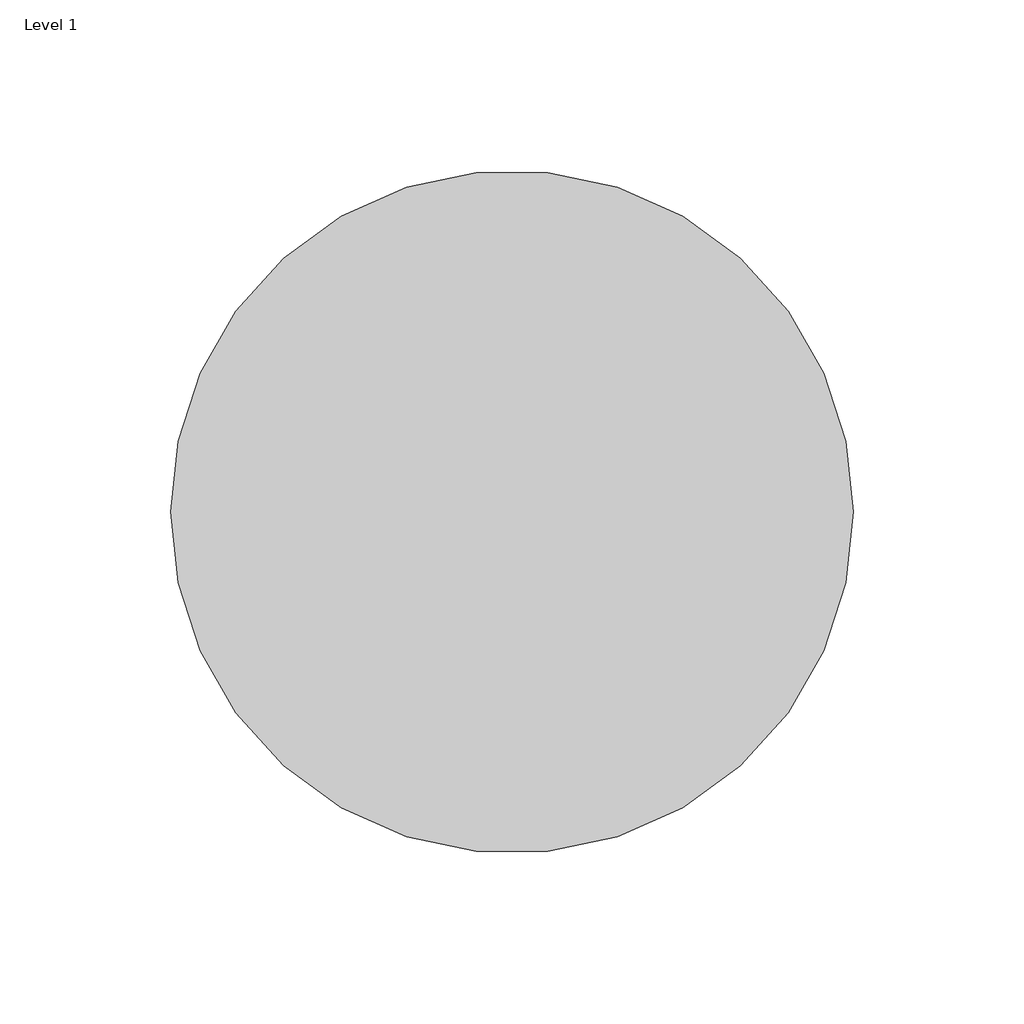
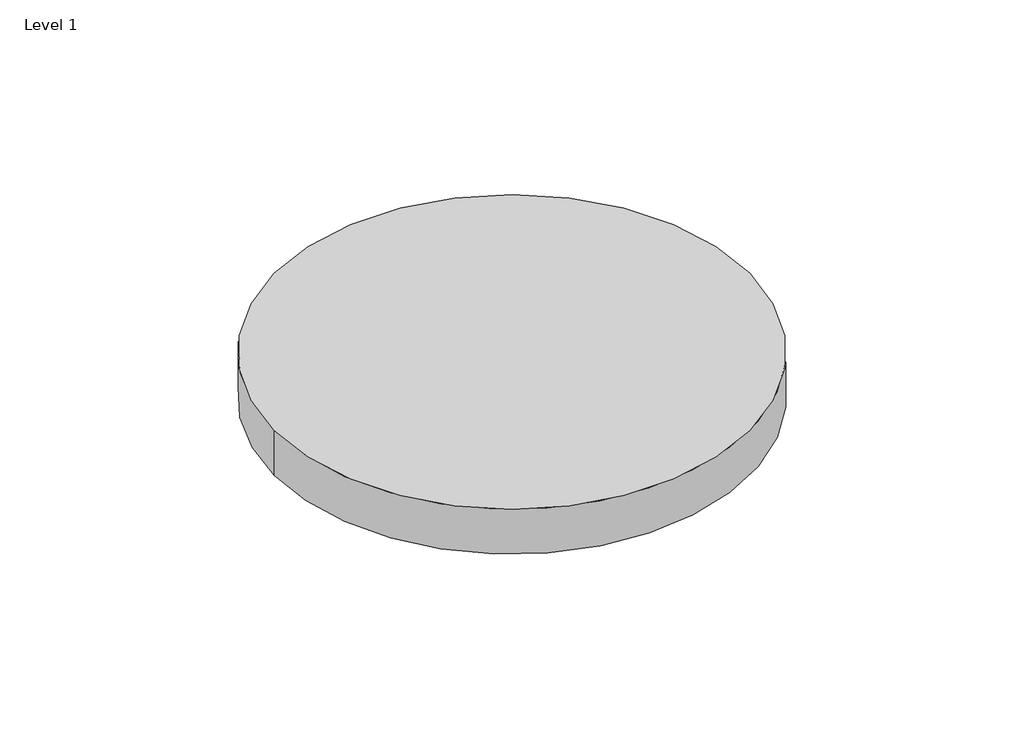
# One storey, incomplete: 1 proxy.
"""IFC4 building model written with IfcOpenShell, lengths in millimetres."""

import ifcopenshell
import ifcopenshell.guid

model = None  # the IFC model being written
_history = None  # IfcOwnerHistory: only IFC2X3 demands one
_inside = {}  # id of a spatial element -> (the spatial element, [elements in it])
_under = {}  # id of a project, library or spatial element -> (it, [spatial elements below it])
_declared = {}  # id of a project -> (the project, [libraries it declares])
_typed = {}  # id of a type object -> (the type object, [elements of that type])
_made_of = {}  # id of a material, layer set ... -> (it, [elements and type objects made of it])


def new_model(schema):
    """Start an empty IFC model of exactly this schema.

    Asked for "IFC4X3", IfcOpenShell would pick the latest addendum, in which some entities
    have other attributes; the version numbers below select the first issue.
    IFC2X3 requires an IfcOwnerHistory on every rooted entity: one is made here for all.
    """
    global model, _history
    if schema == "IFC4X3":
        model = ifcopenshell.file(schema_version=(4, 3, 0, 0))
    else:
        model = ifcopenshell.file(schema=schema)
    _inside.clear()
    _under.clear()
    _declared.clear()
    _typed.clear()
    _made_of.clear()
    _history = None
    if model.schema == "IFC2X3":
        org = make("IfcOrganization", Name="unknown")
        user = make(
            "IfcPersonAndOrganization",
            ThePerson=make("IfcPerson", FamilyName="unknown"),
            TheOrganization=org,
        )
        app = make(
            "IfcApplication",
            ApplicationDeveloper=org,
            Version="unknown",
            ApplicationFullName="unknown",
            ApplicationIdentifier="unknown",
        )
        _history = make(
            "IfcOwnerHistory",
            OwningUser=user,
            OwningApplication=app,
            ChangeAction="ADDED",
            CreationDate=0,
        )
    return model


def make(cls, **values):
    """One entity of the class cls with the attributes given. An attribute that is None is left unset."""
    return model.create_entity(
        cls, **{name: value for name, value in values.items() if value is not None}
    )


def rooted(cls, **values):
    """An entity with a GlobalId (a new one), such as an element, a storey or a relation."""
    return make(cls, GlobalId=ifcopenshell.guid.new(), OwnerHistory=_history, **values)


def si_unit(unit_type, name, prefix=None):
    """IfcSIUnit, for example si_unit("LENGTHUNIT", "METRE", prefix="MILLI")."""
    return make("IfcSIUnit", UnitType=unit_type, Prefix=prefix, Name=name)


def assignment(units):
    """IfcUnitAssignment: the units of a project."""
    return None if units is None else make("IfcUnitAssignment", Units=units)


def point(xyz):
    """IfcCartesianPoint."""
    return None if xyz is None else make("IfcCartesianPoint", Coordinates=xyz)


def direction(xyz):
    """IfcDirection."""
    return None if xyz is None else make("IfcDirection", DirectionRatios=xyz)


def frame(location, z_axis=None, x_axis=None):
    """IfcAxis2Placement3D, a coordinate frame: its origin and axes. An axis left out is left unset."""
    return make(
        "IfcAxis2Placement3D",
        Location=point(location),
        Axis=direction(z_axis),
        RefDirection=direction(x_axis),
    )


def frame_2d(location, x_axis=None):
    """IfcAxis2Placement2D, a coordinate frame in the plane: its origin and x axis."""
    return make(
        "IfcAxis2Placement2D", Location=point(location), RefDirection=direction(x_axis)
    )


def origin():
    """The frame at (0, 0, 0) with its axes left unset."""
    return frame((0.0, 0.0, 0.0))


def origin_with_axes():
    """The frame at (0, 0, 0) with the z axis (0, 0, 1) and the x axis (1, 0, 0) written out."""
    return frame((0.0, 0.0, 0.0), z_axis=(0.0, 0.0, 1.0), x_axis=(1.0, 0.0, 0.0))


def origin_2d():
    """The frame at (0, 0) in the plane with its x axis left unset."""
    return frame_2d((0.0, 0.0))


def place(relative_to, where):
    """IfcLocalPlacement: puts the frame where relative to a parent placement (None: the world)."""
    return make(
        "IfcLocalPlacement", PlacementRelTo=relative_to, RelativePlacement=where
    )


def context(
    kind, dimensions, precision=None, world=None, true_north=None, identifier=None
):
    """IfcGeometricRepresentationContext, for example the 3D "Model" context."""
    return make(
        "IfcGeometricRepresentationContext",
        ContextIdentifier=identifier,
        ContextType=kind,
        CoordinateSpaceDimension=dimensions,
        Precision=precision,
        WorldCoordinateSystem=world,
        TrueNorth=true_north,
    )


def project(units=None, contexts=None):
    """IfcProject with its units and contexts."""
    return rooted(
        "IfcProject",
        Name="project",
        RepresentationContexts=contexts,
        UnitsInContext=assignment(units),
    )


def spatial(cls, under=None, at=None, **own):
    """A site, building, storey or space (cls), placed at a placement, below another one or the project."""
    s = rooted(cls, ObjectPlacement=at, **own)
    if under is not None:
        _under.setdefault(under.id(), (under, []))[1].append(s)
    return s


def circle_curve(where, radius):
    """IfcCircle in the frame where."""
    return make("IfcCircle", Position=where, Radius=radius)


def trimmed(basis, trim1, trim2, sense, master):
    """IfcTrimmedCurve: the piece of a basis curve between two trims."""
    return make(
        "IfcTrimmedCurve",
        BasisCurve=basis,
        Trim1=trim1,
        Trim2=trim2,
        SenseAgreement=sense,
        MasterRepresentation=master,
    )


def segment(curve, same_sense, transition):
    """IfcCompositeCurveSegment."""
    return make(
        "IfcCompositeCurveSegment",
        Transition=transition,
        SameSense=same_sense,
        ParentCurve=curve,
    )


def composite_curve(segments, self_intersect=None):
    """IfcCompositeCurve: segments joined end to end."""
    return make("IfcCompositeCurve", Segments=segments, SelfIntersect=self_intersect)


def outline(outer, holes=None, kind="AREA"):
    """IfcArbitraryClosedProfileDef: a profile drawn as a closed curve; with holes, ...WithVoids."""
    if holes is None:
        return make("IfcArbitraryClosedProfileDef", ProfileType=kind, OuterCurve=outer)
    return make(
        "IfcArbitraryProfileDefWithVoids",
        ProfileType=kind,
        OuterCurve=outer,
        InnerCurves=holes,
    )


def extrude(swept, where, along, depth):
    """IfcExtrudedAreaSolid: the profile swept, set in the frame where, extruded along a direction by depth."""
    return make(
        "IfcExtrudedAreaSolid",
        SweptArea=swept,
        Position=where,
        ExtrudedDirection=direction(along),
        Depth=depth,
    )


def shape(context_of_items, identifier, shape_type, items):
    """IfcShapeRepresentation: the items that make up one representation, for example the "Body"."""
    return make(
        "IfcShapeRepresentation",
        ContextOfItems=context_of_items,
        RepresentationIdentifier=identifier,
        RepresentationType=shape_type,
        Items=items,
    )


def source(mapping_origin, context_of_items, identifier, shape_type, items):
    """IfcRepresentationMap: a shape defined once, which mapped items show again and again."""
    return make(
        "IfcRepresentationMap",
        MappingOrigin=mapping_origin,
        MappedRepresentation=shape(context_of_items, identifier, shape_type, items),
    )


def transform(
    local_origin,
    x_axis=None,
    y_axis=None,
    z_axis=None,
    scale=None,
    scale2=None,
    scale3=None,
    uniform=True,
):
    """IfcCartesianTransformationOperator3D, or its non-uniform kind. x_axis, y_axis, z_axis: its Axis1, 2, 3."""
    if uniform:
        return make(
            "IfcCartesianTransformationOperator3D",
            Axis1=direction(x_axis),
            Axis2=direction(y_axis),
            LocalOrigin=point(local_origin),
            Scale=scale,
            Axis3=direction(z_axis),
        )
    return make(
        "IfcCartesianTransformationOperator3DnonUniform",
        Axis1=direction(x_axis),
        Axis2=direction(y_axis),
        LocalOrigin=point(local_origin),
        Scale=scale,
        Axis3=direction(z_axis),
        Scale2=scale2,
        Scale3=scale3,
    )


def mapped(mapping_source, mapping_target):
    """IfcMappedItem: shows the shape of a source again, moved by a transform."""
    return make(
        "IfcMappedItem", MappingSource=mapping_source, MappingTarget=mapping_target
    )


def made_of(thing, what):
    """Note that an element or type object is made of a material, layer set ...; save() writes the relation."""
    if what is not None:
        _made_of.setdefault(what.id(), (what, []))[1].append(thing)
    return thing


def element(
    cls,
    number,
    at=None,
    inside=None,
    cuts=None,
    type_object=None,
    material=None,
    context=None,
    identifier="Body",
    shape_type=None,
    held_by="IfcProductDefinitionShape",
    body=None,
    shapes=None,
    **own,
):
    """One element of the class cls, such as IfcWall. Its Tag is "e" and its number.

    at: its placement. inside: the storey or other place that contains it. cuts: it is an
    opening in that element (IfcRelVoidsElement). A single representation is given by context,
    identifier, shape_type and body (its items); several are given by shapes. held_by: the class
    of the entity that holds the representations. save() writes the other relations.
    """
    e = rooted(cls, Tag="e%d" % number, ObjectPlacement=at, **own)
    if body is not None:
        shapes = [shape(context, identifier, shape_type, body)]
    if shapes is not None:
        e.Representation = make(held_by, Representations=shapes)
    if inside is not None:
        _inside.setdefault(inside.id(), (inside, []))[1].append(e)
    if cuts is not None:
        rooted(
            "IfcRelVoidsElement", RelatingBuildingElement=cuts, RelatedOpeningElement=e
        )
    if type_object is not None:
        _typed.setdefault(type_object.id(), (type_object, []))[1].append(e)
    return made_of(e, material)


def aggregate(whole, parts):
    """IfcRelAggregates: a whole, such as a stair, and the parts it consists of."""
    return rooted("IfcRelAggregates", RelatingObject=whole, RelatedObjects=parts)


def save(model, path):
    """Write the relations noted so far, then the file.

    IfcRelAggregates (storeys below a building ...), IfcRelContainedInSpatialStructure (elements
    in a storey), IfcRelDefinesByType, IfcRelAssociatesMaterial and IfcRelDeclares: one each for
    every whole, place, type object, material and project.
    """
    for whole, parts in _under.values():
        aggregate(whole, parts)
    for where, things in _inside.values():
        rooted(
            "IfcRelContainedInSpatialStructure",
            RelatedElements=things,
            RelatingStructure=where,
        )
    for kind, things in _typed.values():
        rooted("IfcRelDefinesByType", RelatedObjects=things, RelatingType=kind)
    for what, things in _made_of.values():
        rooted("IfcRelAssociatesMaterial", RelatedObjects=things, RelatingMaterial=what)
    for by, libraries in _declared.values():
        rooted("IfcRelDeclares", RelatingContext=by, RelatedDefinitions=libraries)
    model.write(path)


def materialmodel_materialmodel_ac00f72a(model_context):
    return source(origin(), model_context, "Body", "SweptSolid", [
        extrude(outline(composite_curve([segment(trimmed(circle_curve(origin_2d(), 100.0), [point((-100.0, 0.0))], [point((100.0, 0.0))], False, "CARTESIAN"), True, "CONTINUOUS"), segment(trimmed(circle_curve(origin_2d(), 100.0), [point((100.0, 0.0))], [point((-100.0, 0.0))], False, "CARTESIAN"), True, "CONTINUOUS")], self_intersect=False)), origin_with_axes(), (0.0, 0.0, 1.0), 20.0),
    ])


model = new_model("IFC4")

# Units and contexts
model_context = context("Model", 3, world=origin())
ifc_project = project(units=[si_unit("LENGTHUNIT", "METRE", prefix="MILLI")], contexts=[model_context])

# Site, building, storey
site = spatial("IfcSite", under=ifc_project)
building = spatial("IfcBuilding", under=site)
storey = spatial("IfcBuildingStorey", under=building, Name="Level 1", Elevation=0.0)

# Proxy
placement = place(None, origin())
materialmodel_materialmodel_shape = materialmodel_materialmodel_ac00f72a(model_context)
element("IfcBuildingElementProxy", 1, Name="MaterialModel : MaterialModel", ObjectType="MaterialModel : MaterialModel", at=placement, inside=storey, context=model_context, shape_type="MappedRepresentation", body=[
    mapped(materialmodel_materialmodel_shape, transform((-10051.5892577, 6924.2506669, 0.0), x_axis=(1.0, 0.0, 0.0), y_axis=(0.0, 1.0, 0.0), z_axis=(0.0, 0.0, 1.0))),
])

save(model, "model.ifc")
